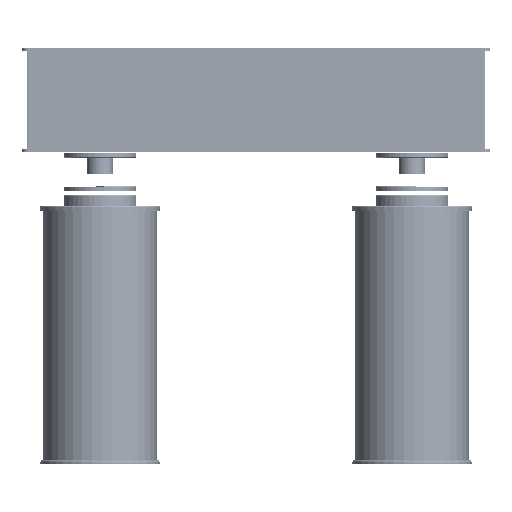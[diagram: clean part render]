
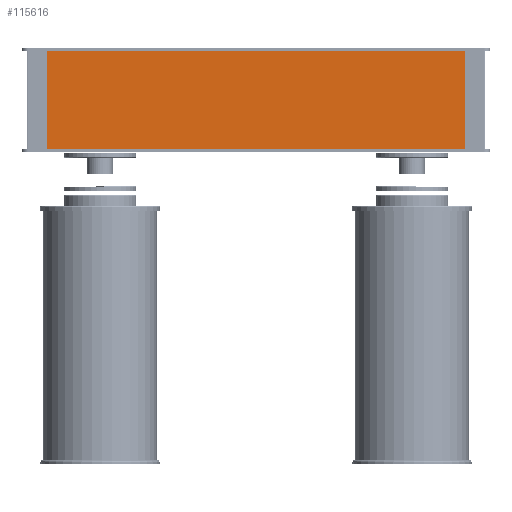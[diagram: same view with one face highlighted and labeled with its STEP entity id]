
A CAD part, left-side view. The second image highlights one B-rep face of the part: STEP entity #115616.
In plain terms, the highlighted planar face has unit normal (-1, 0, 0).
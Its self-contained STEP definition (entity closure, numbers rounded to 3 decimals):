
#15820 = AXIS2_PLACEMENT_3D ( 'NONE', #20226, #124694, #30965 ) ;
#18163 = CARTESIAN_POINT ( 'NONE',  ( -1025.983, -398.14, 57.955 ) ) ;
#18648 = EDGE_CURVE ( 'NONE', #81465, #58276, #86016, .T. ) ;
#19259 = CARTESIAN_POINT ( 'NONE',  ( -1025.983, 467.86, 57.955 ) ) ;
#20226 = CARTESIAN_POINT ( 'NONE',  ( -1025.983, 34.86, -36.545 ) ) ;
#23921 = CARTESIAN_POINT ( 'NONE',  ( -1025.983, 467.86, 57.955 ) ) ;
#24429 = ORIENTED_EDGE ( 'NONE', *, *, #51931, .T. ) ;
#25161 = VECTOR ( 'NONE', #162990, 1000. ) ;
#29123 = LINE ( 'NONE', #138880, #25161 ) ;
#30965 = DIRECTION ( 'NONE',  ( 0., -1., 0. ) ) ;
#36500 = ORIENTED_EDGE ( 'NONE', *, *, #107038, .T. ) ;
#39039 = LINE ( 'NONE', #23921, #169354 ) ;
#47401 = ORIENTED_EDGE ( 'NONE', *, *, #113412, .T. ) ;
#51931 = EDGE_CURVE ( 'NONE', #113127, #81465, #84643, .T. ) ;
#56598 = VECTOR ( 'NONE', #97135, 1000. ) ;
#58276 = VERTEX_POINT ( 'NONE', #118927 ) ;
#69610 = ORIENTED_EDGE ( 'NONE', *, *, #18648, .T. ) ;
#72624 = DIRECTION ( 'NONE',  ( 0., 0., 1. ) ) ;
#81465 = VERTEX_POINT ( 'NONE', #92250 ) ;
#84643 = LINE ( 'NONE', #165828, #56598 ) ;
#86016 = LINE ( 'NONE', #18163, #121750 ) ;
#86171 = VERTEX_POINT ( 'NONE', #19259 ) ;
#92250 = CARTESIAN_POINT ( 'NONE',  ( -1025.983, -398.14, -131.045 ) ) ;
#97135 = DIRECTION ( 'NONE',  ( 0., -1., 0. ) ) ;
#107038 = EDGE_CURVE ( 'NONE', #58276, #86171, #29123, .T. ) ;
#111531 = CARTESIAN_POINT ( 'NONE',  ( -1025.983, 467.86, -131.045 ) ) ;
#113127 = VERTEX_POINT ( 'NONE', #111531 ) ;
#113412 = EDGE_CURVE ( 'NONE', #86171, #113127, #39039, .T. ) ;
#114866 = PLANE ( 'NONE',  #15820 ) ;
#115616 = ADVANCED_FACE ( 'NONE', ( #125594 ), #114866, .F. ) ;
#118927 = CARTESIAN_POINT ( 'NONE',  ( -1025.983, -398.14, 57.955 ) ) ;
#120620 = EDGE_LOOP ( 'NONE', ( #47401, #24429, #69610, #36500 ) ) ;
#121750 = VECTOR ( 'NONE', #72624, 1000. ) ;
#122013 = DIRECTION ( 'NONE',  ( 0., 0., -1. ) ) ;
#124694 = DIRECTION ( 'NONE',  ( 1., 0., 0. ) ) ;
#125594 = FACE_OUTER_BOUND ( 'NONE', #120620, .T. ) ;
#138880 = CARTESIAN_POINT ( 'NONE',  ( -1025.983, -398.14, 57.955 ) ) ;
#162990 = DIRECTION ( 'NONE',  ( 0., 1., 0. ) ) ;
#165828 = CARTESIAN_POINT ( 'NONE',  ( -1025.983, -398.14, -131.045 ) ) ;
#169354 = VECTOR ( 'NONE', #122013, 1000. ) ;
